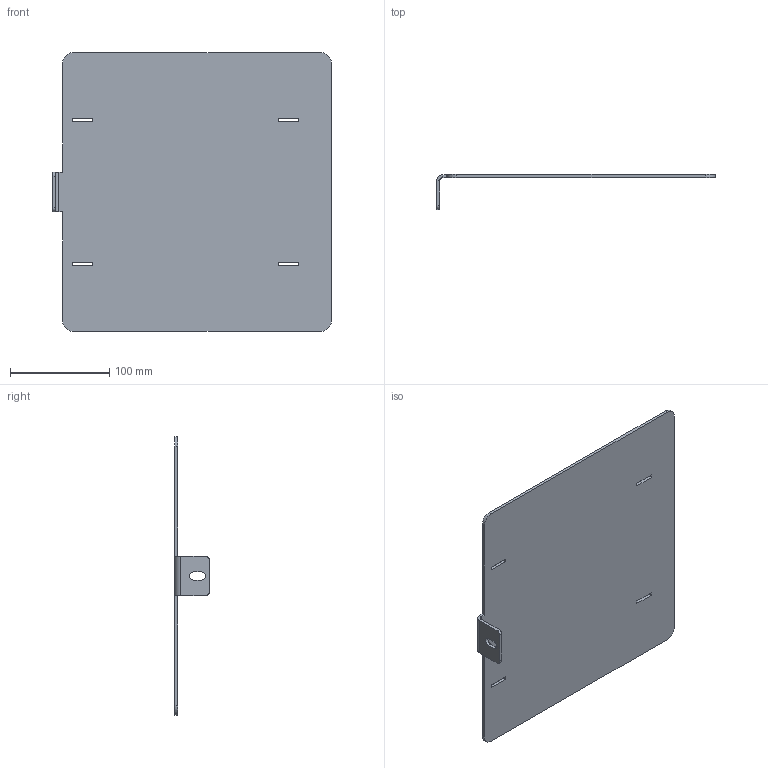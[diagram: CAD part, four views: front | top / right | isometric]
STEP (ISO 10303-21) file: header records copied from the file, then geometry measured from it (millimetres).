
FILE_DESCRIPTION (( 'STEP AP203' ), '1' );
FILE_NAME ('ORW-72.24.60.001 Îñíîâàíèå.STEP', '2025-10-13T13:18:11', ( 'Àíäðåé' ), ( '' ), 'SwSTEP 2.0', 'SolidWorks 2025', '' );
FILE_SCHEMA (( 'CONFIG_CONTROL_DESIGN' ));
Length unit declared in the file: millimetre
Products named in the file (1): ORW-72.24.60.001 Основание
Bounding box: 280 x 35 x 280 mm (x, y, z)
Volume: 230192.9 mm3; surface area: 157627.3 mm2
Topology: 1 solids, 1 shells, 44 faces, 118 edges, 76 vertices
Faces by surface type: plane 34, cylinder 10
Entity records: 1453 total; most frequent: CARTESIAN_POINT 239, ORIENTED_EDGE 236, DIRECTION 228, EDGE_CURVE 118, VECTOR 98, LINE 98, VERTEX_POINT 76, AXIS2_PLACEMENT_3D 65
